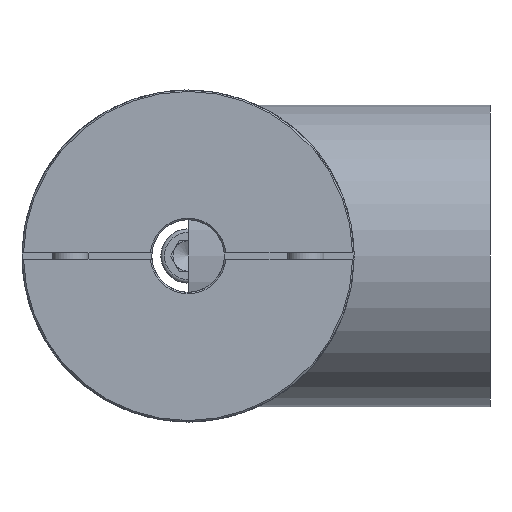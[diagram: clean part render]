
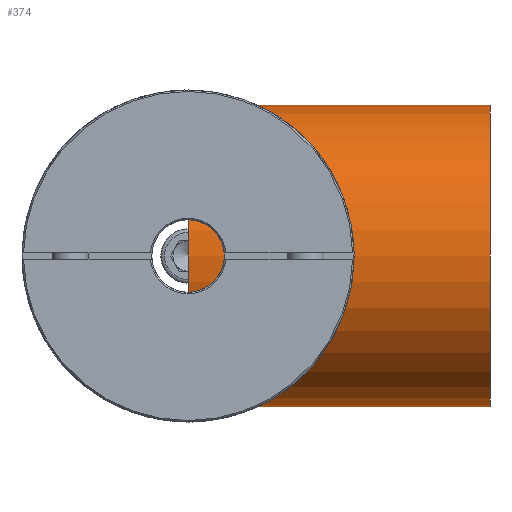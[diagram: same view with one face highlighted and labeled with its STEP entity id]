
A CAD part, left-side view. The second image highlights one B-rep face of the part: STEP entity #374.
In plain terms, the highlighted cylindrical face has radius 50 mm (diameter 100 mm), a full revolution.
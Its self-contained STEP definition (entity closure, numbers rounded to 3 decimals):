
#374 = ADVANCED_FACE( '', ( #653, #654 ), #655, .T. );
#653 = FACE_OUTER_BOUND( '', #909, .T. );
#654 = FACE_OUTER_BOUND( '', #910, .T. );
#655 = CYLINDRICAL_SURFACE( '', #911, 50. );
#909 = EDGE_LOOP( '', ( #1442 ) );
#910 = EDGE_LOOP( '', ( #1443 ) );
#911 = AXIS2_PLACEMENT_3D( '', #1444, #1445, #1446 );
#1442 = ORIENTED_EDGE( '', *, *, #1605, .T. );
#1443 = ORIENTED_EDGE( '', *, *, #1606, .F. );
#1444 = CARTESIAN_POINT( '', ( 0., -100., 0. ) );
#1445 = DIRECTION( '', ( 0., -1., 0. ) );
#1446 = DIRECTION( '', ( 0., 0., 1. ) );
#1605 = EDGE_CURVE( '', #1856, #1856, #1857, .T. );
#1606 = EDGE_CURVE( '', #1858, #1858, #1859, .T. );
#1856 = VERTEX_POINT( '', #2496 );
#1857 = CIRCLE( '', #2497, 50. );
#1858 = VERTEX_POINT( '', #2498 );
#1859 = CIRCLE( '', #2499, 50. );
#2496 = CARTESIAN_POINT( '', ( 50., -100., 0. ) );
#2497 = AXIS2_PLACEMENT_3D( '', #2762, #2763, #2764 );
#2498 = CARTESIAN_POINT( '', ( 50., 0., 0. ) );
#2499 = AXIS2_PLACEMENT_3D( '', #2765, #2766, #2767 );
#2762 = CARTESIAN_POINT( '', ( 0., -100., 0. ) );
#2763 = DIRECTION( '', ( 0., 1., 0. ) );
#2764 = DIRECTION( '', ( 1., 0., 0. ) );
#2765 = CARTESIAN_POINT( '', ( 0., 0., 0. ) );
#2766 = DIRECTION( '', ( 0., 1., 0. ) );
#2767 = DIRECTION( '', ( 1., 0., 0. ) );
